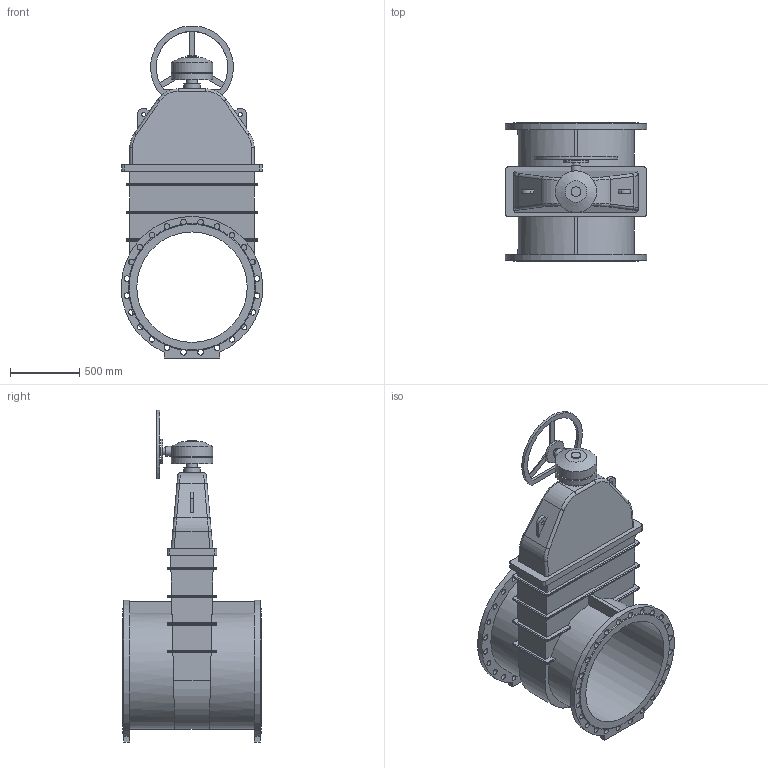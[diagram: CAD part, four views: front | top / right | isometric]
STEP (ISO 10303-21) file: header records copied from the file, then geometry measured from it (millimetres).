
FILE_DESCRIPTION(('STEP AP203'), '1');
FILE_NAME('Çàäâèæêà 47GV DN800 PN10_PN16_L1000 + ðåäóêòîð ñ ìàõîâèêîì', '', ('UNSPECIFIED'), ('UNSPECIFIED'), 'ASCON STEP Converter 1.6', 'ASCON Math Kernel', '');
FILE_SCHEMA(('CONFIG_CONTROL_DESIGN'));
Length unit declared in the file: millimetre
Bounding box: 1024.56 x 1000 x 2403.41 mm (x, y, z)
Volume: 365731598.8 mm3; surface area: 10414781.2 mm2
Topology: 1 solids, 1 shells, 403 faces, 1097 edges, 687 vertices
Faces by surface type: cylinder 169, plane 145, cone 49, bspline 40
Full cylindrical faces by diameter (mm): 14 x8, 18 x8, 30 x3, 41 x48, 50 x1, 70 x2, 80 x1, 100 x1, 120 x1, 175 x1, 280 x1, 300 x2, 800 x1
Entity records: 23604 total; most frequent: CARTESIAN_POINT 10605, ORIENTED_EDGE 2038, DIRECTION 1954, EDGE_CURVE 1019, AXIS2_PLACEMENT_3D 793, VERTEX_POINT 687, EDGE_LOOP 580, FACE_BOUND 475
